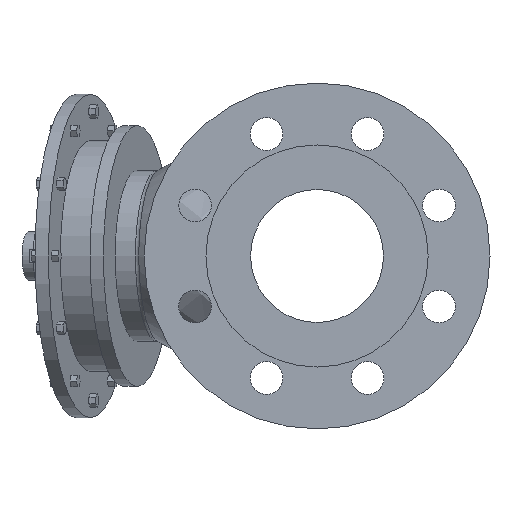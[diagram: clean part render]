
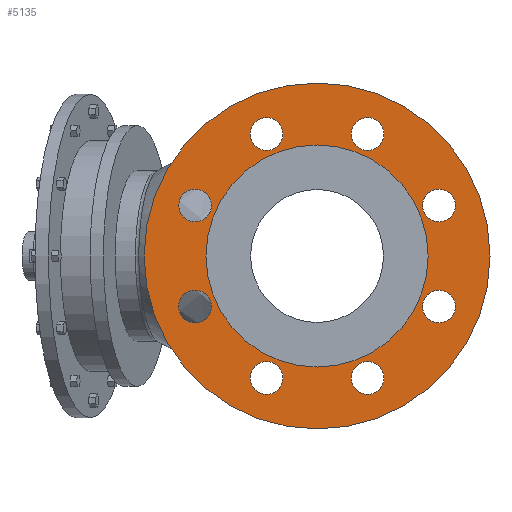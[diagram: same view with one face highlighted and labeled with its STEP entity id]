
A CAD part, left-side view. The second image highlights one B-rep face of the part: STEP entity #5135.
In plain terms, the highlighted planar face has unit normal (-1, 0, 0).
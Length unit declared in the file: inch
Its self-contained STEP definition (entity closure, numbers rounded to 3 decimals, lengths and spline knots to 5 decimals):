
#250=PLANE('',#5505);
#520=FACE_OUTER_BOUND('',#1013,.T.);
#528=CIRCLE('',#5165,0.35433);
#530=CIRCLE('',#5168,0.35433);
#532=CIRCLE('',#5171,0.35433);
#534=CIRCLE('',#5174,0.35433);
#536=CIRCLE('',#5177,0.35433);
#538=CIRCLE('',#5180,0.35433);
#540=CIRCLE('',#5183,0.35433);
#542=CIRCLE('',#5186,0.35433);
#625=CIRCLE('',#5503,2.40158);
#626=CIRCLE('',#5504,2.40158);
#627=CIRCLE('',#5506,3.74);
#628=CIRCLE('',#5507,3.74);
#682=FACE_BOUND('',#1014,.T.);
#683=FACE_BOUND('',#1015,.T.);
#684=FACE_BOUND('',#1016,.T.);
#685=FACE_BOUND('',#1017,.T.);
#686=FACE_BOUND('',#1018,.T.);
#687=FACE_BOUND('',#1019,.T.);
#688=FACE_BOUND('',#1020,.T.);
#689=FACE_BOUND('',#1021,.T.);
#690=FACE_BOUND('',#1022,.T.);
#1013=EDGE_LOOP('',(#4512,#4513));
#1014=EDGE_LOOP('',(#4514));
#1015=EDGE_LOOP('',(#4515));
#1016=EDGE_LOOP('',(#4516));
#1017=EDGE_LOOP('',(#4517));
#1018=EDGE_LOOP('',(#4518));
#1019=EDGE_LOOP('',(#4519));
#1020=EDGE_LOOP('',(#4520));
#1021=EDGE_LOOP('',(#4521));
#1022=EDGE_LOOP('',(#4522,#4523));
#2125=VERTEX_POINT('',#6817);
#2127=VERTEX_POINT('',#6823);
#2129=VERTEX_POINT('',#6829);
#2131=VERTEX_POINT('',#6835);
#2133=VERTEX_POINT('',#6841);
#2135=VERTEX_POINT('',#6847);
#2137=VERTEX_POINT('',#6853);
#2139=VERTEX_POINT('',#6859);
#2564=VERTEX_POINT('',#9314);
#2565=VERTEX_POINT('',#9315);
#2566=VERTEX_POINT('',#9320);
#2567=VERTEX_POINT('',#9321);
#2580=EDGE_CURVE('',#2125,#2125,#528,.T.);
#2583=EDGE_CURVE('',#2127,#2127,#530,.T.);
#2586=EDGE_CURVE('',#2129,#2129,#532,.T.);
#2589=EDGE_CURVE('',#2131,#2131,#534,.T.);
#2592=EDGE_CURVE('',#2133,#2133,#536,.T.);
#2595=EDGE_CURVE('',#2135,#2135,#538,.T.);
#2598=EDGE_CURVE('',#2137,#2137,#540,.T.);
#2601=EDGE_CURVE('',#2139,#2139,#542,.T.);
#3228=EDGE_CURVE('',#2564,#2565,#625,.T.);
#3229=EDGE_CURVE('',#2565,#2564,#626,.T.);
#3231=EDGE_CURVE('',#2566,#2567,#627,.T.);
#3232=EDGE_CURVE('',#2567,#2566,#628,.T.);
#4512=ORIENTED_EDGE('',*,*,#3231,.F.);
#4513=ORIENTED_EDGE('',*,*,#3232,.F.);
#4514=ORIENTED_EDGE('',*,*,#2580,.T.);
#4515=ORIENTED_EDGE('',*,*,#2583,.T.);
#4516=ORIENTED_EDGE('',*,*,#2586,.T.);
#4517=ORIENTED_EDGE('',*,*,#2589,.T.);
#4518=ORIENTED_EDGE('',*,*,#2592,.T.);
#4519=ORIENTED_EDGE('',*,*,#2595,.T.);
#4520=ORIENTED_EDGE('',*,*,#2598,.T.);
#4521=ORIENTED_EDGE('',*,*,#2601,.T.);
#4522=ORIENTED_EDGE('',*,*,#3228,.T.);
#4523=ORIENTED_EDGE('',*,*,#3229,.T.);
#5135=ADVANCED_FACE('',(#520,#682,#683,#684,#685,#686,#687,#688,#689,#690),
#250,.T.);
#5165=AXIS2_PLACEMENT_3D('',#6818,#5545,#5546);
#5168=AXIS2_PLACEMENT_3D('',#6824,#5552,#5553);
#5171=AXIS2_PLACEMENT_3D('',#6830,#5559,#5560);
#5174=AXIS2_PLACEMENT_3D('',#6836,#5566,#5567);
#5177=AXIS2_PLACEMENT_3D('',#6842,#5573,#5574);
#5180=AXIS2_PLACEMENT_3D('',#6848,#5580,#5581);
#5183=AXIS2_PLACEMENT_3D('',#6854,#5587,#5588);
#5186=AXIS2_PLACEMENT_3D('',#6860,#5594,#5595);
#5503=AXIS2_PLACEMENT_3D('',#9316,#6727,#6728);
#5504=AXIS2_PLACEMENT_3D('',#9317,#6729,#6730);
#5505=AXIS2_PLACEMENT_3D('',#9319,#6732,#6733);
#5506=AXIS2_PLACEMENT_3D('',#9322,#6734,#6735);
#5507=AXIS2_PLACEMENT_3D('',#9323,#6736,#6737);
#5545=DIRECTION('center_axis',(1.,0.,0.));
#5546=DIRECTION('ref_axis',(0.,0.707,0.707));
#5552=DIRECTION('center_axis',(1.,0.,0.));
#5553=DIRECTION('ref_axis',(0.,1.,0.));
#5559=DIRECTION('center_axis',(1.,0.,0.));
#5560=DIRECTION('ref_axis',(0.,0.707,-0.707));
#5566=DIRECTION('center_axis',(1.,0.,0.));
#5567=DIRECTION('ref_axis',(0.,0.,-1.));
#5573=DIRECTION('center_axis',(1.,0.,0.));
#5574=DIRECTION('ref_axis',(0.,-0.707,-0.707));
#5580=DIRECTION('center_axis',(1.,0.,0.));
#5581=DIRECTION('ref_axis',(0.,-1.,0.));
#5587=DIRECTION('center_axis',(1.,0.,0.));
#5588=DIRECTION('ref_axis',(0.,-0.707,0.707));
#5594=DIRECTION('center_axis',(1.,0.,0.));
#5595=DIRECTION('ref_axis',(0.,0.,1.));
#6727=DIRECTION('center_axis',(1.,0.,0.));
#6728=DIRECTION('ref_axis',(0.,0.,-1.));
#6729=DIRECTION('center_axis',(1.,0.,0.));
#6730=DIRECTION('ref_axis',(0.,0.,-1.));
#6732=DIRECTION('center_axis',(-1.,0.,0.));
#6733=DIRECTION('ref_axis',(0.,0.,1.));
#6734=DIRECTION('center_axis',(1.,0.,0.));
#6735=DIRECTION('ref_axis',(0.,0.,-1.));
#6736=DIRECTION('center_axis',(1.,0.,0.));
#6737=DIRECTION('ref_axis',(0.,0.,-1.));
#6817=CARTESIAN_POINT('',(-4.01689,0.84176,-2.88763));
#6818=CARTESIAN_POINT('Origin',(-4.01689,1.09231,-2.63708));
#6823=CARTESIAN_POINT('',(-4.01689,-1.44664,-2.63708));
#6824=CARTESIAN_POINT('Origin',(-4.01689,-1.09231,-2.63708));
#6829=CARTESIAN_POINT('',(-4.01689,-2.88763,-0.84176));
#6830=CARTESIAN_POINT('Origin',(-4.01689,-2.63708,-1.09231));
#6835=CARTESIAN_POINT('',(-4.01689,-2.63708,1.44664));
#6836=CARTESIAN_POINT('Origin',(-4.01689,-2.63708,1.09231));
#6841=CARTESIAN_POINT('',(-4.01689,-0.84176,2.88763));
#6842=CARTESIAN_POINT('Origin',(-4.01689,-1.09231,2.63708));
#6847=CARTESIAN_POINT('',(-4.01689,1.44664,2.63708));
#6848=CARTESIAN_POINT('Origin',(-4.01689,1.09231,2.63708));
#6853=CARTESIAN_POINT('',(-4.01689,2.88763,0.84176));
#6854=CARTESIAN_POINT('Origin',(-4.01689,2.63708,1.09231));
#6859=CARTESIAN_POINT('',(-4.01689,2.63708,-1.44664));
#6860=CARTESIAN_POINT('Origin',(-4.01689,2.63708,-1.09231));
#9314=CARTESIAN_POINT('',(-4.01689,2.40158,0.));
#9315=CARTESIAN_POINT('',(-4.01689,-2.40158,0.));
#9316=CARTESIAN_POINT('Origin',(-4.01689,0.,0.));
#9317=CARTESIAN_POINT('Origin',(-4.01689,0.,0.));
#9319=CARTESIAN_POINT('Origin',(-4.01689,3.74,0.));
#9320=CARTESIAN_POINT('',(-4.01689,3.74,0.));
#9321=CARTESIAN_POINT('',(-4.01689,-3.74,0.));
#9322=CARTESIAN_POINT('Origin',(-4.01689,0.,0.));
#9323=CARTESIAN_POINT('Origin',(-4.01689,0.,0.));
